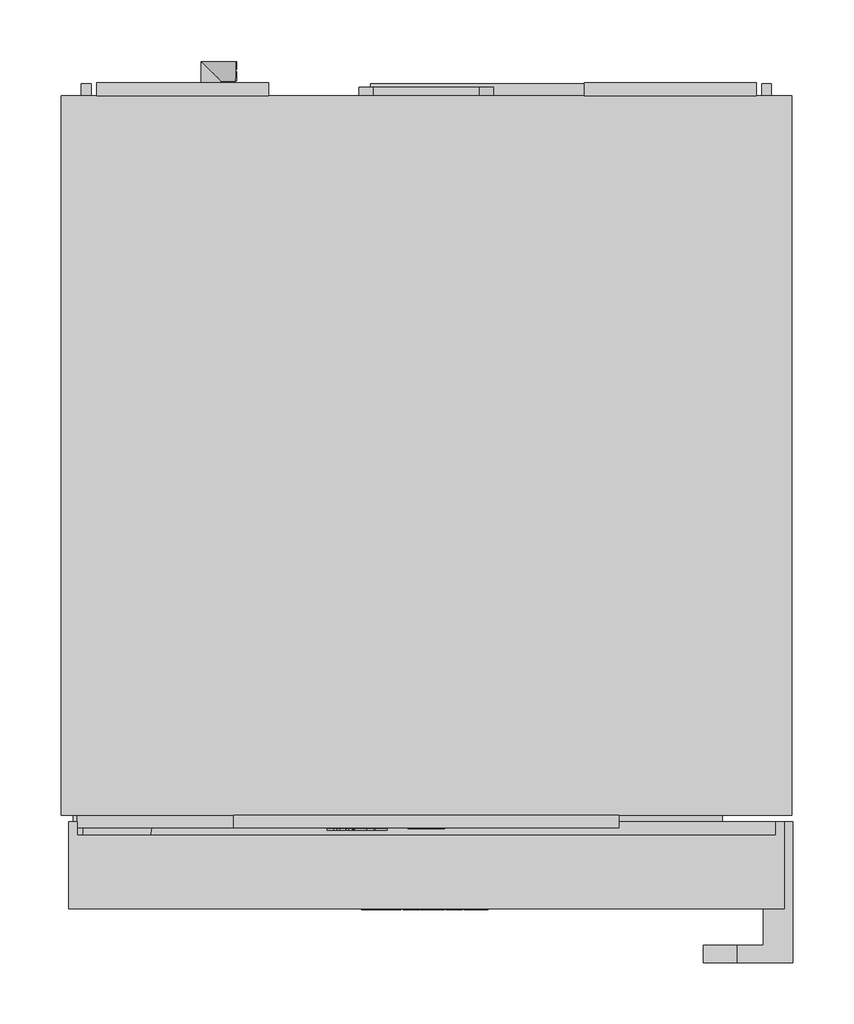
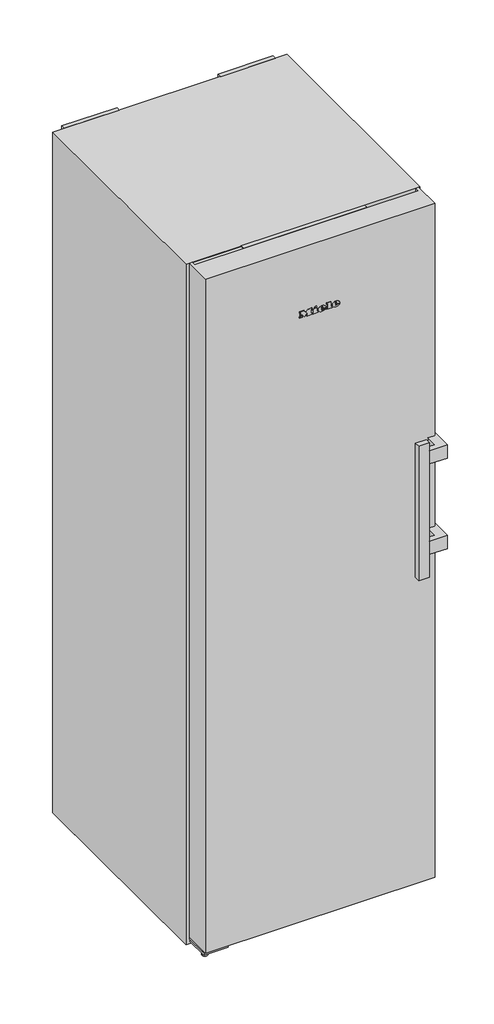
# Not in any storey: 1 proxy.
"""IFC4 building model written with IfcOpenShell, lengths in millimetres."""

from ifc_helpers import new_model, si_unit, origin, place, context, project, spatial, transform, mapped, element, save
from components import specialty_equipment_6f414071

model = new_model("IFC4")

# Units and contexts
model_context = context("Model", 3, world=origin())
ifc_project = project(units=[si_unit("LENGTHUNIT", "METRE", prefix="MILLI")], contexts=[model_context])

# Site, building
site = spatial("IfcSite", under=ifc_project)
building = spatial("IfcBuilding", under=site)

# Proxy
placement = place(None, origin())
specialty_equipment_shape = specialty_equipment_6f414071(model_context)
element("IfcBuildingElementProxy", 1, Name="11953930_EU2_FNS4882D_EDTCS-N : 37488240_EU2_11953930_FNS4882D_EDTCS-N", ObjectType="11953930_EU2_FNS4882D_EDTCS-N : 37488240_EU2_11953930_FNS4882D_EDTCS-N", at=placement, inside=building, context=model_context, shape_type="MappedRepresentation", body=[
    mapped(specialty_equipment_shape, transform((0.0, 0.0, 0.0), x_axis=(1.0, 0.0, 0.0), y_axis=(0.0, 1.0, 0.0), z_axis=(0.0, 0.0, 1.0))),
])

save(model, "model.ifc")
